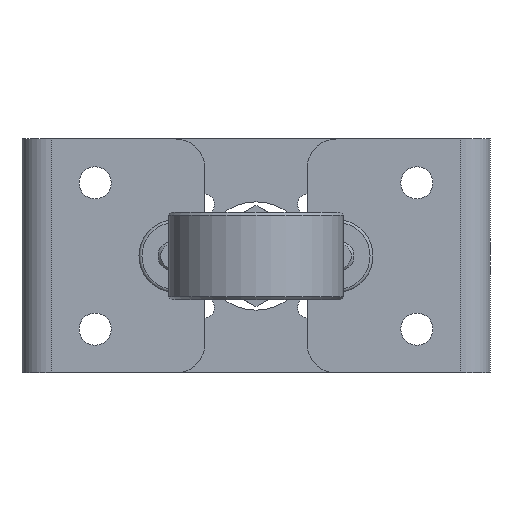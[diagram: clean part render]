
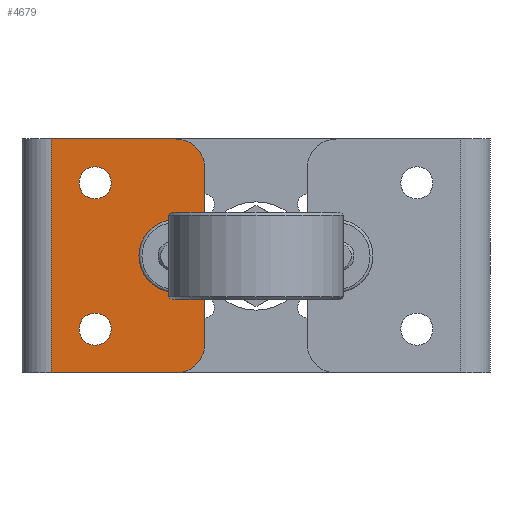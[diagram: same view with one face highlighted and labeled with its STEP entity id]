
A CAD part, front view. The second image highlights one B-rep face of the part: STEP entity #4679.
In plain terms, the highlighted planar face has unit normal (0, -1, 0).
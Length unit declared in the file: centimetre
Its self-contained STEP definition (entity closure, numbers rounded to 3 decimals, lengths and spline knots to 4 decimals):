
#253=LINE('',#7127,#544);
#255=LINE('',#7131,#546);
#257=LINE('',#7135,#548);
#258=LINE('',#7137,#549);
#259=LINE('',#7139,#550);
#260=LINE('',#7141,#551);
#261=LINE('',#7144,#552);
#544=VECTOR('',#5892,1.75);
#546=VECTOR('',#5894,1.75);
#548=VECTOR('',#5898,1.);
#549=VECTOR('',#5899,4.25);
#550=VECTOR('',#5900,8.);
#551=VECTOR('',#5901,4.25);
#552=VECTOR('',#5904,1.);
#836=PLANE('',#5089);
#961=FACE_BOUND('',#1520,.T.);
#962=FACE_BOUND('',#1521,.T.);
#1184=FACE_OUTER_BOUND('',#1519,.T.);
#1519=EDGE_LOOP('',(#3461,#3462,#3463,#3464,#3465,#3466,#3467,#3468,#3469,
#3470));
#1520=EDGE_LOOP('',(#3471));
#1521=EDGE_LOOP('',(#3472));
#1885=CIRCLE('',#5055,0.55);
#1888=CIRCLE('',#5060,0.55);
#1905=CIRCLE('',#5087,1.);
#1906=CIRCLE('',#5090,1.);
#1907=CIRCLE('',#5091,1.25);
#2136=VERTEX_POINT('',#7051);
#2139=VERTEX_POINT('',#7059);
#2163=VERTEX_POINT('',#7120);
#2164=VERTEX_POINT('',#7121);
#2165=VERTEX_POINT('',#7126);
#2166=VERTEX_POINT('',#7128);
#2167=VERTEX_POINT('',#7130);
#2168=VERTEX_POINT('',#7134);
#2169=VERTEX_POINT('',#7136);
#2170=VERTEX_POINT('',#7138);
#2171=VERTEX_POINT('',#7140);
#2172=VERTEX_POINT('',#7143);
#2629=EDGE_CURVE('',#2136,#2136,#1885,.T.);
#2632=EDGE_CURVE('',#2139,#2139,#1888,.T.);
#2659=EDGE_CURVE('',#2163,#2164,#1905,.T.);
#2662=EDGE_CURVE('',#2165,#2164,#253,.T.);
#2664=EDGE_CURVE('',#2167,#2166,#255,.T.);
#2666=EDGE_CURVE('',#2168,#2165,#257,.T.);
#2667=EDGE_CURVE('',#2163,#2169,#258,.T.);
#2668=EDGE_CURVE('',#2170,#2169,#259,.T.);
#2669=EDGE_CURVE('',#2170,#2171,#260,.T.);
#2670=EDGE_CURVE('',#2167,#2171,#1906,.T.);
#2671=EDGE_CURVE('',#2166,#2172,#261,.T.);
#2672=EDGE_CURVE('',#2168,#2172,#1907,.T.);
#3461=ORIENTED_EDGE('',*,*,#2666,.T.);
#3462=ORIENTED_EDGE('',*,*,#2662,.T.);
#3463=ORIENTED_EDGE('',*,*,#2659,.F.);
#3464=ORIENTED_EDGE('',*,*,#2667,.T.);
#3465=ORIENTED_EDGE('',*,*,#2668,.F.);
#3466=ORIENTED_EDGE('',*,*,#2669,.T.);
#3467=ORIENTED_EDGE('',*,*,#2670,.F.);
#3468=ORIENTED_EDGE('',*,*,#2664,.T.);
#3469=ORIENTED_EDGE('',*,*,#2671,.T.);
#3470=ORIENTED_EDGE('',*,*,#2672,.F.);
#3471=ORIENTED_EDGE('',*,*,#2629,.T.);
#3472=ORIENTED_EDGE('',*,*,#2632,.T.);
#4679=ADVANCED_FACE('',(#1184,#961,#962),#836,.T.);
#5055=AXIS2_PLACEMENT_3D('',#7052,#5812,#5813);
#5060=AXIS2_PLACEMENT_3D('',#7060,#5822,#5823);
#5087=AXIS2_PLACEMENT_3D('',#7122,#5886,#5887);
#5089=AXIS2_PLACEMENT_3D('',#7133,#5896,#5897);
#5090=AXIS2_PLACEMENT_3D('',#7142,#5902,#5903);
#5091=AXIS2_PLACEMENT_3D('',#7145,#5905,#5906);
#5812=DIRECTION('center_axis',(0.,1.,0.));
#5813=DIRECTION('ref_axis',(-1.,0.,0.));
#5822=DIRECTION('center_axis',(0.,1.,0.));
#5823=DIRECTION('ref_axis',(-1.,0.,0.));
#5886=DIRECTION('center_axis',(0.,1.,0.));
#5887=DIRECTION('ref_axis',(0.707,0.,0.707));
#5892=DIRECTION('',(0.,0.,1.));
#5894=DIRECTION('',(0.,0.,1.));
#5896=DIRECTION('center_axis',(0.,-1.,0.));
#5897=DIRECTION('ref_axis',(1.,0.,0.));
#5898=DIRECTION('',(1.,0.,0.));
#5899=DIRECTION('',(-1.,0.,0.));
#5900=DIRECTION('',(0.,0.,1.));
#5901=DIRECTION('',(1.,0.,0.));
#5902=DIRECTION('center_axis',(0.,1.,0.));
#5903=DIRECTION('ref_axis',(0.707,0.,-0.707));
#5904=DIRECTION('',(-1.,0.,0.));
#5905=DIRECTION('center_axis',(0.,-1.,0.));
#5906=DIRECTION('ref_axis',(-0.707,0.,0.707));
#7051=CARTESIAN_POINT('',(-4.95,9.3,-1.));
#7052=CARTESIAN_POINT('Origin',(-5.5,9.3,-1.));
#7059=CARTESIAN_POINT('',(-4.95,9.3,4.));
#7060=CARTESIAN_POINT('Origin',(-5.5,9.3,4.));
#7120=CARTESIAN_POINT('',(-2.75,9.3,5.5));
#7121=CARTESIAN_POINT('',(-1.75,9.3,4.5));
#7122=CARTESIAN_POINT('Origin',(-2.75,9.3,4.5));
#7126=CARTESIAN_POINT('',(-1.75,9.3,2.75));
#7127=CARTESIAN_POINT('',(-1.75,9.3,-0.7703));
#7128=CARTESIAN_POINT('',(-1.75,9.3,0.25));
#7130=CARTESIAN_POINT('',(-1.75,9.3,-1.5));
#7131=CARTESIAN_POINT('',(-1.75,9.3,-0.7703));
#7133=CARTESIAN_POINT('Origin',(0.,9.3,
1.5));
#7134=CARTESIAN_POINT('',(-2.75,9.3,2.75));
#7135=CARTESIAN_POINT('',(4.,9.3,2.75));
#7136=CARTESIAN_POINT('',(-7.,9.3,5.5));
#7137=CARTESIAN_POINT('',(-8.,9.3,5.5));
#7138=CARTESIAN_POINT('',(-7.,9.3,-2.5));
#7139=CARTESIAN_POINT('',(-7.,9.3,3.5));
#7140=CARTESIAN_POINT('',(-2.75,9.3,-2.5));
#7141=CARTESIAN_POINT('',(8.,9.3,-2.5));
#7142=CARTESIAN_POINT('Origin',(-2.75,9.3,-1.5));
#7143=CARTESIAN_POINT('',(-2.75,9.3,0.25));
#7144=CARTESIAN_POINT('',(4.,9.3,0.25));
#7145=CARTESIAN_POINT('Origin',(-2.75,9.3,1.5));
